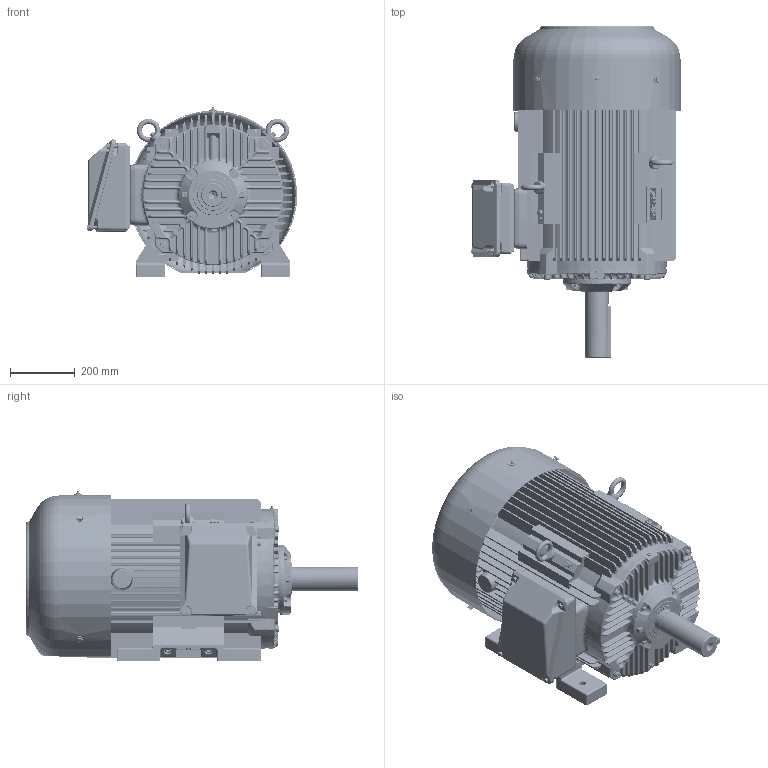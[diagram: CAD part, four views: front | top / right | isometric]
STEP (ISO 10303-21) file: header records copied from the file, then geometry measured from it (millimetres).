
FILE_DESCRIPTION(/* description */ ('Unknown','CAx-IF Rec.Pracs.---Representation and Presentation of Product Manufacturing Information (PMI)---4.0---2014-10-13','CAx-IF Rec.Pracs.---3D Tessellated Geometry---0.4---2014-09-14','2;1'),/* implementation_level */ '2;1');
FILE_NAME(/* name */ 'Silnik SIE400T4_6',/* time_stamp */ '2024-07-08T08:56:51+02:00',/* author */ ('Unknown'),/* organization */ ('Unknown'),/* preprocessor_version */ 'ST-DEVELOPER v16.7',/* originating_system */ 'DEX',/* authorisation */ $);
FILE_SCHEMA (('AP242_MANAGED_MODEL_BASED_3D_ENGINEERING_MIM_LF { 1 0 10303 442 20130219 1 4 }'));
Length unit declared in the file: millimetre
Products named in the file (1): Silnik SIE400T4_6
Bounding box: 648.98 x 1023.69 x 526 mm (x, y, z)
Volume: 85489389.1 mm3; surface area: 7651923.1 mm2
Topology: 11 solids, 70 shells, 11403 faces, 29380 edges, 18161 vertices
Faces by surface type: plane 5757, cylinder 2578, bspline 1355, torus 1101, cone 376, sphere 236
Full cylindrical faces by diameter (mm): 1.6 x2, 2.459 x2, 2.5 x4, 3 x17, 3.4 x4, 4.917 x2, 5 x4, 6 x5, 6.2 x14, 6.3 x1, 6.35 x3, 6.4 x2, 6.466 x8, 6.647 x8, 8 x30, 8.376 x4, 8.5 x5, 8.917 x1, 9 x12, 9.853 x8, 10 x23, 10.106 x12, 10.5 x5, 11.63 x5, 12 x20, 13 x8, 13.546 x4, 13.835 x4, 14 x9, 14.63 x9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
Entity records: 467722 total; most frequent: CARTESIAN_POINT 121146, ORIENTED_EDGE 55938, DIRECTION 52425, EDGE_CURVE 27969, AXIS2_PLACEMENT_3D 18129, VERTEX_POINT 17746, LINE 16167, VECTOR 16167
